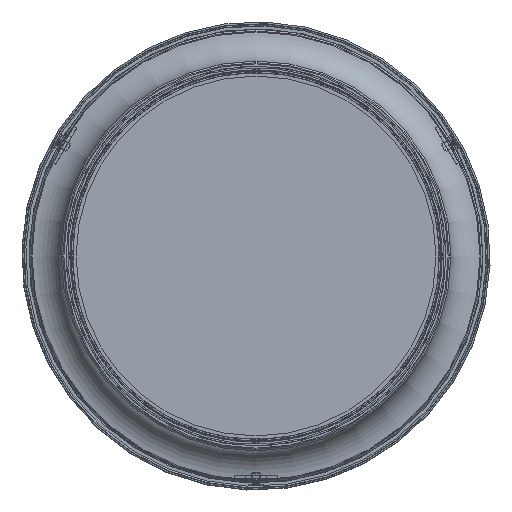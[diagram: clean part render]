
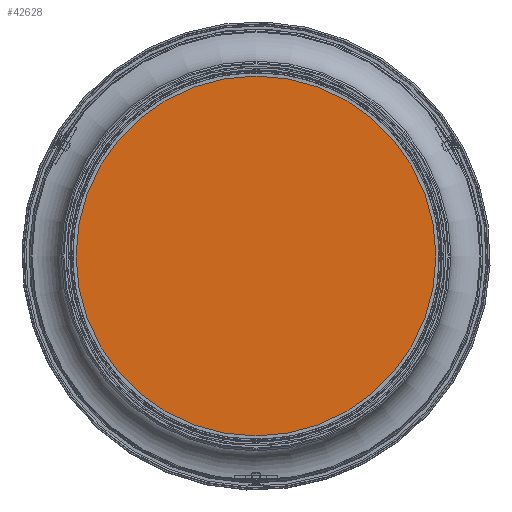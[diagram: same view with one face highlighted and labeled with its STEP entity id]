
A CAD part, front view. The second image highlights one B-rep face of the part: STEP entity #42628.
In plain terms, the highlighted planar face has unit normal (0, -1, 0).
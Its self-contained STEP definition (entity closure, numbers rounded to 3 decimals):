
#4989=PLANE('',#46396);
#6788=CIRCLE('',#46394,88.5);
#8620=FACE_OUTER_BOUND('',#10866,.T.);
#10866=EDGE_LOOP('',(#30994));
#21442=VERTEX_POINT('',#63988);
#25218=EDGE_CURVE('',#21442,#21442,#6788,.T.);
#30994=ORIENTED_EDGE('',*,*,#25218,.T.);
#42628=ADVANCED_FACE('',(#8620),#4989,.T.);
#46394=AXIS2_PLACEMENT_3D('',#63989,#50947,#50948);
#46396=AXIS2_PLACEMENT_3D('',#63993,#50952,#50953);
#50947=DIRECTION('center_axis',(0.,-1.,0.));
#50948=DIRECTION('ref_axis',(1.,0.,0.));
#50952=DIRECTION('center_axis',(0.,-1.,0.));
#50953=DIRECTION('ref_axis',(0.,0.,-1.));
#63988=CARTESIAN_POINT('',(-88.5,3.,0.));
#63989=CARTESIAN_POINT('Origin',(0.,3.,0.));
#63993=CARTESIAN_POINT('Origin',(0.,3.,0.));
